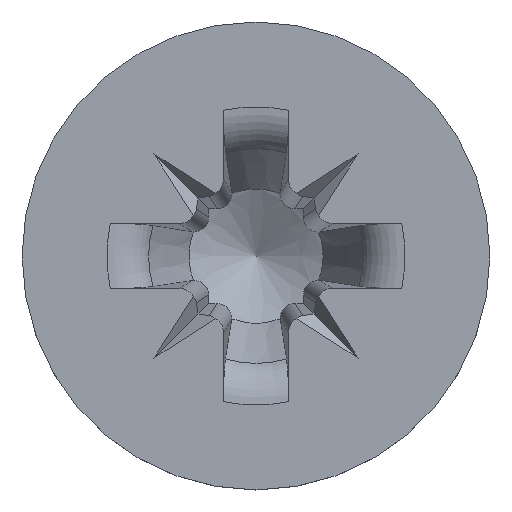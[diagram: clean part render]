
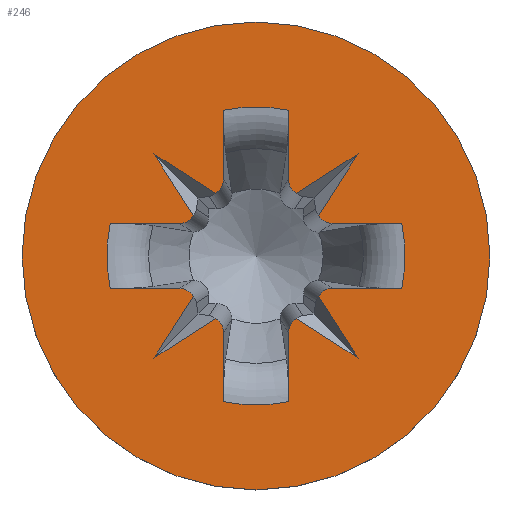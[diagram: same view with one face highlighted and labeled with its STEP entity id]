
A CAD part, top view. The second image highlights one B-rep face of the part: STEP entity #246.
In plain terms, the highlighted planar face has unit normal (0, 0, 1).
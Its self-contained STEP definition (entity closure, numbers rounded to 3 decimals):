
#61=PLANE('',#1187);
#88=ELLIPSE('',#1176,0.101,0.1);
#89=ELLIPSE('',#1177,0.101,0.1);
#90=ELLIPSE('',#1179,0.101,0.1);
#91=ELLIPSE('',#1180,0.101,0.1);
#92=ELLIPSE('',#1182,0.101,0.1);
#93=ELLIPSE('',#1183,0.101,0.1);
#94=ELLIPSE('',#1185,0.101,0.1);
#95=ELLIPSE('',#1186,0.101,0.1);
#104=LINE('',#1795,#164);
#105=LINE('',#1800,#165);
#106=LINE('',#1804,#166);
#107=LINE('',#1806,#167);
#108=LINE('',#1810,#168);
#109=LINE('',#1814,#169);
#110=LINE('',#1818,#170);
#111=LINE('',#1820,#171);
#112=LINE('',#1824,#172);
#113=LINE('',#1828,#173);
#114=LINE('',#1832,#174);
#115=LINE('',#1834,#175);
#116=LINE('',#1838,#176);
#117=LINE('',#1842,#177);
#118=LINE('',#1846,#178);
#119=LINE('',#1848,#179);
#164=VECTOR('',#1273,1.);
#165=VECTOR('',#1276,1.);
#166=VECTOR('',#1279,1.);
#167=VECTOR('',#1280,1.);
#168=VECTOR('',#1283,1.);
#169=VECTOR('',#1286,1.);
#170=VECTOR('',#1289,1.);
#171=VECTOR('',#1290,1.);
#172=VECTOR('',#1293,1.);
#173=VECTOR('',#1296,1.);
#174=VECTOR('',#1299,1.);
#175=VECTOR('',#1300,1.);
#176=VECTOR('',#1303,1.);
#177=VECTOR('',#1306,1.);
#178=VECTOR('',#1309,1.);
#179=VECTOR('',#1310,1.);
#232=FACE_BOUND('',#382,.T.);
#233=FACE_BOUND('',#383,.T.);
#246=ADVANCED_FACE('',(#232,#233),#61,.F.);
#382=EDGE_LOOP('',(#488));
#383=EDGE_LOOP('',(#489,#490,#491,#492,#493,#494,#495,#496,#497,#498,#499,
#500,#501,#502,#503,#504,#505,#506,#507,#508,#509,#510,#511,#512,#513,#514,
#515,#516));
#455=CIRCLE('',#1174,1.5);
#456=CIRCLE('',#1175,0.957);
#457=CIRCLE('',#1178,0.957);
#458=CIRCLE('',#1181,0.957);
#459=CIRCLE('',#1184,0.957);
#488=ORIENTED_EDGE('',*,*,#939,.T.);
#489=ORIENTED_EDGE('',*,*,#940,.F.);
#490=ORIENTED_EDGE('',*,*,#941,.T.);
#491=ORIENTED_EDGE('',*,*,#942,.F.);
#492=ORIENTED_EDGE('',*,*,#943,.F.);
#493=ORIENTED_EDGE('',*,*,#944,.T.);
#494=ORIENTED_EDGE('',*,*,#945,.T.);
#495=ORIENTED_EDGE('',*,*,#946,.F.);
#496=ORIENTED_EDGE('',*,*,#947,.F.);
#497=ORIENTED_EDGE('',*,*,#948,.T.);
#498=ORIENTED_EDGE('',*,*,#949,.F.);
#499=ORIENTED_EDGE('',*,*,#950,.F.);
#500=ORIENTED_EDGE('',*,*,#951,.T.);
#501=ORIENTED_EDGE('',*,*,#952,.T.);
#502=ORIENTED_EDGE('',*,*,#953,.F.);
#503=ORIENTED_EDGE('',*,*,#954,.F.);
#504=ORIENTED_EDGE('',*,*,#955,.T.);
#505=ORIENTED_EDGE('',*,*,#956,.F.);
#506=ORIENTED_EDGE('',*,*,#957,.F.);
#507=ORIENTED_EDGE('',*,*,#958,.T.);
#508=ORIENTED_EDGE('',*,*,#959,.T.);
#509=ORIENTED_EDGE('',*,*,#960,.F.);
#510=ORIENTED_EDGE('',*,*,#961,.F.);
#511=ORIENTED_EDGE('',*,*,#962,.T.);
#512=ORIENTED_EDGE('',*,*,#963,.F.);
#513=ORIENTED_EDGE('',*,*,#964,.F.);
#514=ORIENTED_EDGE('',*,*,#965,.T.);
#515=ORIENTED_EDGE('',*,*,#966,.T.);
#516=ORIENTED_EDGE('',*,*,#967,.F.);
#826=VERTEX_POINT('',#1794);
#827=VERTEX_POINT('',#1796);
#828=VERTEX_POINT('',#1797);
#829=VERTEX_POINT('',#1799);
#830=VERTEX_POINT('',#1801);
#831=VERTEX_POINT('',#1803);
#832=VERTEX_POINT('',#1805);
#833=VERTEX_POINT('',#1807);
#834=VERTEX_POINT('',#1809);
#835=VERTEX_POINT('',#1811);
#836=VERTEX_POINT('',#1813);
#837=VERTEX_POINT('',#1815);
#838=VERTEX_POINT('',#1817);
#839=VERTEX_POINT('',#1819);
#840=VERTEX_POINT('',#1821);
#841=VERTEX_POINT('',#1823);
#842=VERTEX_POINT('',#1825);
#843=VERTEX_POINT('',#1827);
#844=VERTEX_POINT('',#1829);
#845=VERTEX_POINT('',#1831);
#846=VERTEX_POINT('',#1833);
#847=VERTEX_POINT('',#1835);
#848=VERTEX_POINT('',#1837);
#849=VERTEX_POINT('',#1839);
#850=VERTEX_POINT('',#1841);
#851=VERTEX_POINT('',#1843);
#852=VERTEX_POINT('',#1845);
#853=VERTEX_POINT('',#1847);
#854=VERTEX_POINT('',#1849);
#939=EDGE_CURVE('',#826,#826,#455,.T.);
#940=EDGE_CURVE('',#827,#828,#104,.T.);
#941=EDGE_CURVE('',#827,#829,#456,.T.);
#942=EDGE_CURVE('',#830,#829,#105,.T.);
#943=EDGE_CURVE('',#831,#830,#88,.T.);
#944=EDGE_CURVE('',#831,#832,#106,.T.);
#945=EDGE_CURVE('',#832,#833,#107,.T.);
#946=EDGE_CURVE('',#834,#833,#89,.T.);
#947=EDGE_CURVE('',#835,#834,#108,.T.);
#948=EDGE_CURVE('',#835,#836,#457,.T.);
#949=EDGE_CURVE('',#837,#836,#109,.T.);
#950=EDGE_CURVE('',#838,#837,#90,.T.);
#951=EDGE_CURVE('',#838,#839,#110,.T.);
#952=EDGE_CURVE('',#839,#840,#111,.T.);
#953=EDGE_CURVE('',#841,#840,#91,.T.);
#954=EDGE_CURVE('',#842,#841,#112,.T.);
#955=EDGE_CURVE('',#842,#843,#458,.T.);
#956=EDGE_CURVE('',#844,#843,#113,.T.);
#957=EDGE_CURVE('',#845,#844,#92,.T.);
#958=EDGE_CURVE('',#845,#846,#114,.T.);
#959=EDGE_CURVE('',#846,#847,#115,.T.);
#960=EDGE_CURVE('',#848,#847,#93,.T.);
#961=EDGE_CURVE('',#849,#848,#116,.T.);
#962=EDGE_CURVE('',#849,#850,#459,.T.);
#963=EDGE_CURVE('',#851,#850,#117,.T.);
#964=EDGE_CURVE('',#852,#851,#94,.T.);
#965=EDGE_CURVE('',#852,#853,#118,.T.);
#966=EDGE_CURVE('',#853,#854,#119,.T.);
#967=EDGE_CURVE('',#828,#854,#95,.T.);
#1174=AXIS2_PLACEMENT_3D('',#1793,#1271,#1272);
#1175=AXIS2_PLACEMENT_3D('',#1798,#1274,#1275);
#1176=AXIS2_PLACEMENT_3D('',#1802,#1277,#1278);
#1177=AXIS2_PLACEMENT_3D('',#1808,#1281,#1282);
#1178=AXIS2_PLACEMENT_3D('',#1812,#1284,#1285);
#1179=AXIS2_PLACEMENT_3D('',#1816,#1287,#1288);
#1180=AXIS2_PLACEMENT_3D('',#1822,#1291,#1292);
#1181=AXIS2_PLACEMENT_3D('',#1826,#1294,#1295);
#1182=AXIS2_PLACEMENT_3D('',#1830,#1297,#1298);
#1183=AXIS2_PLACEMENT_3D('',#1836,#1301,#1302);
#1184=AXIS2_PLACEMENT_3D('',#1840,#1304,#1305);
#1185=AXIS2_PLACEMENT_3D('',#1844,#1307,#1308);
#1186=AXIS2_PLACEMENT_3D('',#1850,#1311,#1312);
#1187=AXIS2_PLACEMENT_3D('',#1851,#1313,#1314);
#1271=DIRECTION('',(0.,0.,1.));
#1272=DIRECTION('',(1.,0.,0.));
#1273=DIRECTION('',(0.,1.,0.));
#1274=DIRECTION('',(0.,0.,-1.));
#1275=DIRECTION('',(-1.,0.,0.));
#1276=DIRECTION('',(0.,-1.,0.));
#1277=DIRECTION('',(0.,0.,-1.));
#1278=DIRECTION('',(-0.544,-0.839,0.));
#1279=DIRECTION('',(-0.843,-0.539,0.));
#1280=DIRECTION('',(0.539,0.843,0.));
#1281=DIRECTION('',(0.,0.,-1.));
#1282=DIRECTION('',(-0.839,-0.544,0.));
#1283=DIRECTION('',(1.,0.,0.));
#1284=DIRECTION('',(0.,0.,-1.));
#1285=DIRECTION('',(-1.,0.,0.));
#1286=DIRECTION('',(-1.,0.,0.));
#1287=DIRECTION('',(0.,0.,-1.));
#1288=DIRECTION('',(-0.839,0.544,0.));
#1289=DIRECTION('',(-0.539,0.843,0.));
#1290=DIRECTION('',(0.843,-0.539,0.));
#1291=DIRECTION('',(0.,0.,-1.));
#1292=DIRECTION('',(-0.544,0.839,0.));
#1293=DIRECTION('',(0.,-1.,0.));
#1294=DIRECTION('',(0.,0.,-1.));
#1295=DIRECTION('',(-1.,0.,0.));
#1296=DIRECTION('',(0.,1.,0.));
#1297=DIRECTION('',(0.,0.,-1.));
#1298=DIRECTION('',(0.544,0.839,0.));
#1299=DIRECTION('',(0.843,0.539,0.));
#1300=DIRECTION('',(-0.539,-0.843,0.));
#1301=DIRECTION('',(0.,0.,-1.));
#1302=DIRECTION('',(0.839,0.544,0.));
#1303=DIRECTION('',(-1.,0.,0.));
#1304=DIRECTION('',(0.,0.,-1.));
#1305=DIRECTION('',(-1.,0.,0.));
#1306=DIRECTION('',(1.,0.,0.));
#1307=DIRECTION('',(0.,0.,-1.));
#1308=DIRECTION('',(0.839,-0.544,0.));
#1309=DIRECTION('',(0.539,-0.843,0.));
#1310=DIRECTION('',(-0.843,0.539,0.));
#1311=DIRECTION('',(0.,0.,-1.));
#1312=DIRECTION('',(0.544,-0.839,0.));
#1313=DIRECTION('',(0.,0.,-1.));
#1314=DIRECTION('',(-1.,0.,0.));
#1793=CARTESIAN_POINT('',(0.,0.,1.17));
#1794=CARTESIAN_POINT('',(1.5,0.,1.17));
#1795=CARTESIAN_POINT('',(0.208,1.5,1.17));
#1796=CARTESIAN_POINT('',(0.208,-0.934,1.17));
#1797=CARTESIAN_POINT('',(0.208,-0.489,1.17));
#1798=CARTESIAN_POINT('',(0.,0.,1.17));
#1799=CARTESIAN_POINT('',(-0.208,-0.934,1.17));
#1800=CARTESIAN_POINT('',(-0.208,1.5,1.17));
#1801=CARTESIAN_POINT('',(-0.208,-0.489,1.17));
#1802=CARTESIAN_POINT('',(-0.309,-0.49,1.17));
#1803=CARTESIAN_POINT('',(-0.259,-0.402,1.17));
#1804=CARTESIAN_POINT('',(0.788,0.268,1.17));
#1805=CARTESIAN_POINT('',(-0.655,-0.655,1.17));
#1806=CARTESIAN_POINT('',(0.513,1.172,1.17));
#1807=CARTESIAN_POINT('',(-0.402,-0.259,1.17));
#1808=CARTESIAN_POINT('',(-0.49,-0.309,1.17));
#1809=CARTESIAN_POINT('',(-0.489,-0.208,1.17));
#1810=CARTESIAN_POINT('',(0.,-0.208,1.17));
#1811=CARTESIAN_POINT('',(-0.934,-0.208,1.17));
#1812=CARTESIAN_POINT('',(0.,0.,1.17));
#1813=CARTESIAN_POINT('',(-0.934,0.208,1.17));
#1814=CARTESIAN_POINT('',(0.,0.208,1.17));
#1815=CARTESIAN_POINT('',(-0.489,0.208,1.17));
#1816=CARTESIAN_POINT('',(-0.49,0.309,1.17));
#1817=CARTESIAN_POINT('',(-0.402,0.259,1.17));
#1818=CARTESIAN_POINT('',(-0.848,0.958,1.17));
#1819=CARTESIAN_POINT('',(-0.655,0.655,1.17));
#1820=CARTESIAN_POINT('',(-0.574,0.603,1.17));
#1821=CARTESIAN_POINT('',(-0.259,0.402,1.17));
#1822=CARTESIAN_POINT('',(-0.309,0.49,1.17));
#1823=CARTESIAN_POINT('',(-0.208,0.489,1.17));
#1824=CARTESIAN_POINT('',(-0.208,1.5,1.17));
#1825=CARTESIAN_POINT('',(-0.208,0.934,1.17));
#1826=CARTESIAN_POINT('',(0.,0.,1.17));
#1827=CARTESIAN_POINT('',(0.208,0.934,1.17));
#1828=CARTESIAN_POINT('',(0.208,1.5,1.17));
#1829=CARTESIAN_POINT('',(0.208,0.489,1.17));
#1830=CARTESIAN_POINT('',(0.309,0.49,1.17));
#1831=CARTESIAN_POINT('',(0.259,0.402,1.17));
#1832=CARTESIAN_POINT('',(0.574,0.603,1.17));
#1833=CARTESIAN_POINT('',(0.655,0.655,1.17));
#1834=CARTESIAN_POINT('',(0.848,0.958,1.17));
#1835=CARTESIAN_POINT('',(0.402,0.259,1.17));
#1836=CARTESIAN_POINT('',(0.49,0.309,1.17));
#1837=CARTESIAN_POINT('',(0.489,0.208,1.17));
#1838=CARTESIAN_POINT('',(0.,0.208,1.17));
#1839=CARTESIAN_POINT('',(0.934,0.208,1.17));
#1840=CARTESIAN_POINT('',(0.,0.,1.17));
#1841=CARTESIAN_POINT('',(0.934,-0.208,1.17));
#1842=CARTESIAN_POINT('',(0.,-0.208,1.17));
#1843=CARTESIAN_POINT('',(0.489,-0.208,1.17));
#1844=CARTESIAN_POINT('',(0.49,-0.309,1.17));
#1845=CARTESIAN_POINT('',(0.402,-0.259,1.17));
#1846=CARTESIAN_POINT('',(-0.513,1.172,1.17));
#1847=CARTESIAN_POINT('',(0.655,-0.655,1.17));
#1848=CARTESIAN_POINT('',(-0.788,0.268,1.17));
#1849=CARTESIAN_POINT('',(0.259,-0.402,1.17));
#1850=CARTESIAN_POINT('',(0.309,-0.49,1.17));
#1851=CARTESIAN_POINT('',(0.,1.5,1.17));
